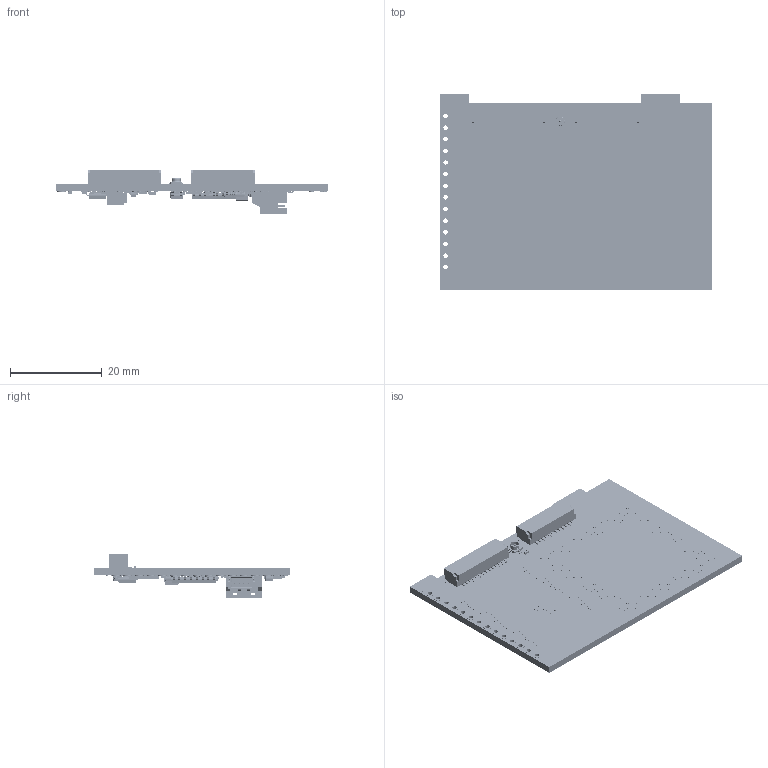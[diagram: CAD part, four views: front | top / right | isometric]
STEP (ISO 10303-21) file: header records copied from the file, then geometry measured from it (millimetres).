
FILE_DESCRIPTION(('KiCad electronic assembly'),'2;1');
FILE_NAME('SparkFun_RTK_Facet_mosaic.step','2025-02-20T11:35:43',( 'Pcbnew'),('Kicad'),'Open CASCADE STEP processor 7.8', 'KiCad to STEP converter','Unknown');
FILE_SCHEMA(('AUTOMOTIVE_DESIGN { 1 0 10303 214 1 1 1 1 }'));
Length unit declared in the file: millimetre
Products named in the file (38): SparkFun_RTK_Facet_mosaic 1; C_0402_1005Metric; ESP32-WROVER-IB; mosaic; U.FL; JST_SM12B-SRSS-TB; JST_SM14B-SRSS-TB; R_0402_1005Metric; MSOP-10_3x3mm_P0.5mm; R_0603_1608Metric; C_0603_1608Metric; SOT-23; D_SOD-323; SOT-363_SC-70-6; SOT-23-5; SO-16_3.9x9.9mm_P1.27mm; SOT-353_SC-70-5; Qwiic-Horizontal; Crystal_SMD_2.0x1.6mm; CHIP_100M4T_WAL; CP_EIA-3528-21_Vishay-B; SOT-23-6; DFN-8_3x3mm_P0.65mm; LDF; CPD; QFN-36-1EP_6x6mm_P0.5mm_EP3.7x3.7mm; DFN-8-1EP_2x2mm_P0.5mm_EP1.05x1.75mm; JST_SMD_2.0mm-2-Black; JST-PH-2 v1; SparkFun_RTK_Facet_mosaic_copper; SparkFun_RTK_Facet_mosaic_pad; SparkFun_RTK_Facet_mosaic_silkscreen; SparkFun_RTK_Facet_mosaic_soldermask; SparkFun_RTK_Facet_mosaic_PCB
Assembly tree (115 placements, depth 3):
  SparkFun_RTK_Facet_mosaic 1
    C_0402_1005Metric  x25
    ESP32-WROVER-IB
    mosaic
    U.FL
    JST_SM12B-SRSS-TB
    JST_SM14B-SRSS-TB
    R_0402_1005Metric  x38
    MSOP-10_3x3mm_P0.5mm
    R_0603_1608Metric  x4
    C_0603_1608Metric  x5
    SOT-23  x3
    D_SOD-323  x4
    SOT-363_SC-70-6  x2
    SOT-23-5  x2
    SO-16_3.9x9.9mm_P1.27mm  x2
    SOT-353_SC-70-5  x3
    Qwiic-Horizontal
    Crystal_SMD_2.0x1.6mm
    CHIP_100M4T_WAL
    CP_EIA-3528-21_Vishay-B
    SOT-23-6
    DFN-8_3x3mm_P0.65mm
      LDF
      CPD
    QFN-36-1EP_6x6mm_P0.5mm_EP3.7x3.7mm
    DFN-8-1EP_2x2mm_P0.5mm_EP1.05x1.75mm
    JST_SMD_2.0mm-2-Black
      JST-PH-2 v1
      JST-PH-2 v1
      JST-PH-2 v1
      JST-PH-2 v1
      JST-PH-2 v1
    SparkFun_RTK_Facet_mosaic_copper
    SparkFun_RTK_Facet_mosaic_pad
    SparkFun_RTK_Facet_mosaic_silkscreen
    SparkFun_RTK_Facet_mosaic_soldermask
    SparkFun_RTK_Facet_mosaic_PCB
Bounding box: 59.5 x 43 x 9.48 mm (x, y, z)
Volume: 4316.4 mm3; surface area: 13324.8 mm2
Topology: 833 solids, 1219 shells, 10038 faces, 31197 edges, 23304 vertices
Faces by surface type: plane 7279, cylinder 2235, bspline 520, cone 3, sphere 1
Full cylindrical faces by diameter (mm): 0.4 x2, 0.5 x6, 0.6 x239, 0.966 x42, 1.016 x39, 1.8 x1, 1.88 x28, 1.92 x1, 2 x2
Entity records: 285523 total; most frequent: CARTESIAN_POINT 50987, DIRECTION 42370, ORIENTED_EDGE 39106, EDGE_CURVE 23874, LINE 18730, VECTOR 18730, VERTEX_POINT 18633, AXIS2_PLACEMENT_3D 11820
